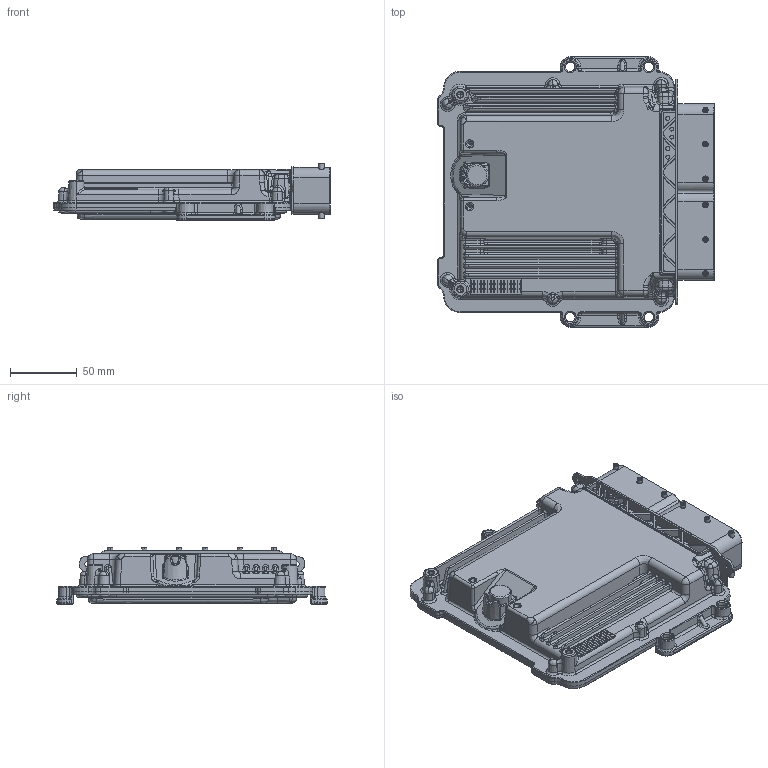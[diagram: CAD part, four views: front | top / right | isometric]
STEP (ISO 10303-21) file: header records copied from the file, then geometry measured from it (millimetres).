
FILE_DESCRIPTION(('CATIA V6 STEP'),'2;1');
FILE_NAME('D:\G2\Stage5\Standard Engine\Engine Model\Production\ECU.stp','2018-05-03T02:33:00+00:00',('none'),('none'),'3DEXPERIENCE Platform3DEXPERIENCE R2014x HotFix 24','3DEXPERIENCE Platform STEP AP203','none');
FILE_SCHEMA(('CONFIG_CONTROL_DESIGN'));
Products named in the file (1): C-00040009  X0
Bounding box: 207.75 x 203 x 42.65 mm (x, y, z)
Volume: 955220.9 mm3; surface area: 128252.5 mm2
Topology: 1 solids, 1 shells, 2083 faces, 5194 edges, 3101 vertices
Faces by surface type: cylinder 613, plane 568, bspline 471, torus 179, cone 146, sphere 104, extrusion 2
Entity records: 97152 total; most frequent: CARTESIAN_POINT 54958, ORIENTED_EDGE 10176, DIRECTION 6109, EDGE_CURVE 5088, VERTEX_POINT 3101, AXIS2_PLACEMENT_3D 2644, EDGE_LOOP 2189, ADVANCED_FACE 2083
